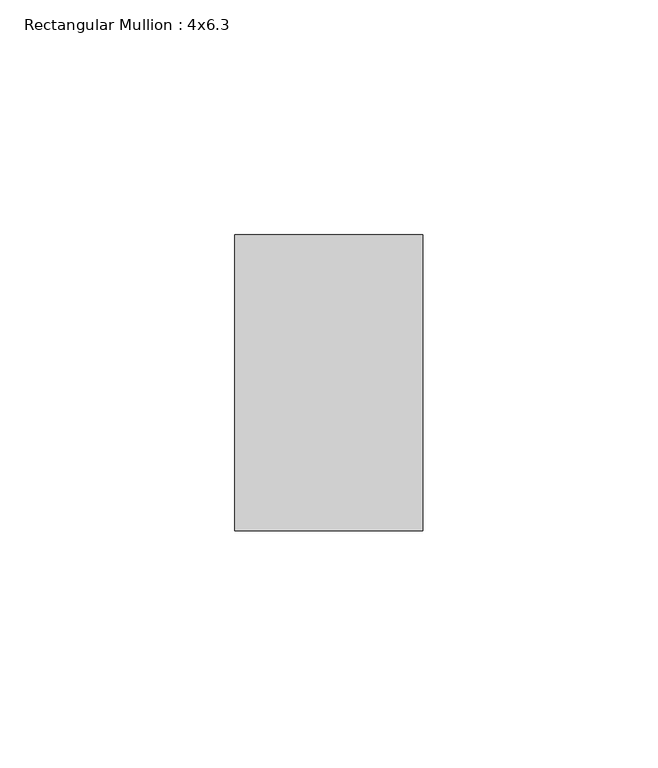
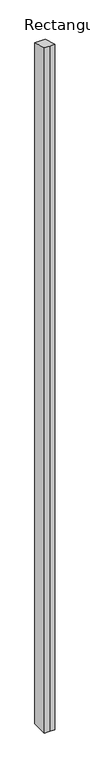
"""IFC4 building model written with IfcOpenShell, lengths in millimetres: member geometry, Rectangular Mullion : 4x6.3."""

import ifcopenshell
import ifcopenshell.guid

model = None  # the IFC model being written
_history = None  # IfcOwnerHistory: only IFC2X3 demands one
_inside = {}  # id of a spatial element -> (the spatial element, [elements in it])
_under = {}  # id of a project, library or spatial element -> (it, [spatial elements below it])
_declared = {}  # id of a project -> (the project, [libraries it declares])
_typed = {}  # id of a type object -> (the type object, [elements of that type])
_made_of = {}  # id of a material, layer set ... -> (it, [elements and type objects made of it])


def new_model(schema):
    """Start an empty IFC model of exactly this schema.

    Asked for "IFC4X3", IfcOpenShell would pick the latest addendum, in which some entities
    have other attributes; the version numbers below select the first issue.
    IFC2X3 requires an IfcOwnerHistory on every rooted entity: one is made here for all.
    """
    global model, _history
    if schema == "IFC4X3":
        model = ifcopenshell.file(schema_version=(4, 3, 0, 0))
    else:
        model = ifcopenshell.file(schema=schema)
    _inside.clear()
    _under.clear()
    _declared.clear()
    _typed.clear()
    _made_of.clear()
    _history = None
    if model.schema == "IFC2X3":
        org = make("IfcOrganization", Name="unknown")
        user = make(
            "IfcPersonAndOrganization",
            ThePerson=make("IfcPerson", FamilyName="unknown"),
            TheOrganization=org,
        )
        app = make(
            "IfcApplication",
            ApplicationDeveloper=org,
            Version="unknown",
            ApplicationFullName="unknown",
            ApplicationIdentifier="unknown",
        )
        _history = make(
            "IfcOwnerHistory",
            OwningUser=user,
            OwningApplication=app,
            ChangeAction="ADDED",
            CreationDate=0,
        )
    return model


def make(cls, **values):
    """One entity of the class cls with the attributes given. An attribute that is None is left unset."""
    return model.create_entity(
        cls, **{name: value for name, value in values.items() if value is not None}
    )


def rooted(cls, **values):
    """An entity with a GlobalId (a new one), such as an element, a storey or a relation."""
    return make(cls, GlobalId=ifcopenshell.guid.new(), OwnerHistory=_history, **values)


def si_unit(unit_type, name, prefix=None):
    """IfcSIUnit, for example si_unit("LENGTHUNIT", "METRE", prefix="MILLI")."""
    return make("IfcSIUnit", UnitType=unit_type, Prefix=prefix, Name=name)


def assignment(units):
    """IfcUnitAssignment: the units of a project."""
    return None if units is None else make("IfcUnitAssignment", Units=units)


def point(xyz):
    """IfcCartesianPoint."""
    return None if xyz is None else make("IfcCartesianPoint", Coordinates=xyz)


def direction(xyz):
    """IfcDirection."""
    return None if xyz is None else make("IfcDirection", DirectionRatios=xyz)


def frame(location, z_axis=None, x_axis=None):
    """IfcAxis2Placement3D, a coordinate frame: its origin and axes. An axis left out is left unset."""
    return make(
        "IfcAxis2Placement3D",
        Location=point(location),
        Axis=direction(z_axis),
        RefDirection=direction(x_axis),
    )


def origin():
    """The frame at (0, 0, 0) with its axes left unset."""
    return frame((0.0, 0.0, 0.0))


def place(relative_to, where):
    """IfcLocalPlacement: puts the frame where relative to a parent placement (None: the world)."""
    return make(
        "IfcLocalPlacement", PlacementRelTo=relative_to, RelativePlacement=where
    )


def context(
    kind, dimensions, precision=None, world=None, true_north=None, identifier=None
):
    """IfcGeometricRepresentationContext, for example the 3D "Model" context."""
    return make(
        "IfcGeometricRepresentationContext",
        ContextIdentifier=identifier,
        ContextType=kind,
        CoordinateSpaceDimension=dimensions,
        Precision=precision,
        WorldCoordinateSystem=world,
        TrueNorth=true_north,
    )


def project(units=None, contexts=None):
    """IfcProject with its units and contexts."""
    return rooted(
        "IfcProject",
        Name="project",
        RepresentationContexts=contexts,
        UnitsInContext=assignment(units),
    )


def spatial(cls, under=None, at=None, **own):
    """A site, building, storey or space (cls), placed at a placement, below another one or the project."""
    s = rooted(cls, ObjectPlacement=at, **own)
    if under is not None:
        _under.setdefault(under.id(), (under, []))[1].append(s)
    return s


def faces_of(points, faces, orient=None, outer=None):
    """IfcFace entities. A face is a list of loops; a loop is a list of indices into points, from 0.

    orient and outer hold one flag for each loop. By default every Orientation is true, the
    first loop of a face is its IfcFaceOuterBound and the others are IfcFaceBound.
    """
    made = []
    for i, loops in enumerate(faces):
        bounds = []
        for j, loop in enumerate(loops):
            is_outer = j == 0 if outer is None else outer[i][j]
            bounds.append(
                make(
                    "IfcFaceOuterBound" if is_outer else "IfcFaceBound",
                    Bound=make("IfcPolyLoop", Polygon=[points[k] for k in loop]),
                    Orientation=True if orient is None else orient[i][j],
                )
            )
        made.append(make("IfcFace", Bounds=bounds))
    return made


def faceted_brep(points, faces, orient=None, outer=None, voids=None):
    """IfcFacetedBrep: a solid bounded by flat faces; with voids (closed shells), ...WithVoids."""
    shared = [point(p) for p in points]
    hull = make("IfcClosedShell", CfsFaces=faces_of(shared, faces, orient, outer))
    if voids is None:
        return make("IfcFacetedBrep", Outer=hull)
    return make(
        "IfcFacetedBrepWithVoids",
        Outer=hull,
        Voids=[
            make(cls, CfsFaces=faces_of(shared, fs, o, b)) for cls, fs, o, b in voids
        ],
    )


def shape(context_of_items, identifier, shape_type, items):
    """IfcShapeRepresentation: the items that make up one representation, for example the "Body"."""
    return make(
        "IfcShapeRepresentation",
        ContextOfItems=context_of_items,
        RepresentationIdentifier=identifier,
        RepresentationType=shape_type,
        Items=items,
    )


def source(mapping_origin, context_of_items, identifier, shape_type, items):
    """IfcRepresentationMap: a shape defined once, which mapped items show again and again."""
    return make(
        "IfcRepresentationMap",
        MappingOrigin=mapping_origin,
        MappedRepresentation=shape(context_of_items, identifier, shape_type, items),
    )


def transform(
    local_origin,
    x_axis=None,
    y_axis=None,
    z_axis=None,
    scale=None,
    scale2=None,
    scale3=None,
    uniform=True,
):
    """IfcCartesianTransformationOperator3D, or its non-uniform kind. x_axis, y_axis, z_axis: its Axis1, 2, 3."""
    if uniform:
        return make(
            "IfcCartesianTransformationOperator3D",
            Axis1=direction(x_axis),
            Axis2=direction(y_axis),
            LocalOrigin=point(local_origin),
            Scale=scale,
            Axis3=direction(z_axis),
        )
    return make(
        "IfcCartesianTransformationOperator3DnonUniform",
        Axis1=direction(x_axis),
        Axis2=direction(y_axis),
        LocalOrigin=point(local_origin),
        Scale=scale,
        Axis3=direction(z_axis),
        Scale2=scale2,
        Scale3=scale3,
    )


def mapped(mapping_source, mapping_target):
    """IfcMappedItem: shows the shape of a source again, moved by a transform."""
    return make(
        "IfcMappedItem", MappingSource=mapping_source, MappingTarget=mapping_target
    )


def made_of(thing, what):
    """Note that an element or type object is made of a material, layer set ...; save() writes the relation."""
    if what is not None:
        _made_of.setdefault(what.id(), (what, []))[1].append(thing)
    return thing


def element(
    cls,
    number,
    at=None,
    inside=None,
    cuts=None,
    type_object=None,
    material=None,
    context=None,
    identifier="Body",
    shape_type=None,
    held_by="IfcProductDefinitionShape",
    body=None,
    shapes=None,
    **own,
):
    """One element of the class cls, such as IfcWall. Its Tag is "e" and its number.

    at: its placement. inside: the storey or other place that contains it. cuts: it is an
    opening in that element (IfcRelVoidsElement). A single representation is given by context,
    identifier, shape_type and body (its items); several are given by shapes. held_by: the class
    of the entity that holds the representations. save() writes the other relations.
    """
    e = rooted(cls, Tag="e%d" % number, ObjectPlacement=at, **own)
    if body is not None:
        shapes = [shape(context, identifier, shape_type, body)]
    if shapes is not None:
        e.Representation = make(held_by, Representations=shapes)
    if inside is not None:
        _inside.setdefault(inside.id(), (inside, []))[1].append(e)
    if cuts is not None:
        rooted(
            "IfcRelVoidsElement", RelatingBuildingElement=cuts, RelatedOpeningElement=e
        )
    if type_object is not None:
        _typed.setdefault(type_object.id(), (type_object, []))[1].append(e)
    return made_of(e, material)


def aggregate(whole, parts):
    """IfcRelAggregates: a whole, such as a stair, and the parts it consists of."""
    return rooted("IfcRelAggregates", RelatingObject=whole, RelatedObjects=parts)


def save(model, path):
    """Write the relations noted so far, then the file.

    IfcRelAggregates (storeys below a building ...), IfcRelContainedInSpatialStructure (elements
    in a storey), IfcRelDefinesByType, IfcRelAssociatesMaterial and IfcRelDeclares: one each for
    every whole, place, type object, material and project.
    """
    for whole, parts in _under.values():
        aggregate(whole, parts)
    for where, things in _inside.values():
        rooted(
            "IfcRelContainedInSpatialStructure",
            RelatedElements=things,
            RelatingStructure=where,
        )
    for kind, things in _typed.values():
        rooted("IfcRelDefinesByType", RelatedObjects=things, RelatingType=kind)
    for what, things in _made_of.values():
        rooted("IfcRelAssociatesMaterial", RelatedObjects=things, RelatingMaterial=what)
    for by, libraries in _declared.values():
        rooted("IfcRelDeclares", RelatingContext=by, RelatedDefinitions=libraries)
    model.write(path)


def rectangular_mullion_4x6_3_4b727375(model_context):
    return source(origin(), model_context, "Body", "Brep", [
        faceted_brep([(-20.0, 20.0, -2771.3942457), (-20.0, 83.0, -2771.3942457), (20.0, 83.0, -2771.3942457), (20.0, 20.0, -2771.3942457), (0.0, 20.0, -2771.3942457), (0.0, 20.0, -5.4283368), (-20.0, 20.0, -5.4283368), (20.0, 20.0, -5.4283368), (20.0, 83.0, -22.5275978), (-20.0, 83.0, -22.5275978)], [[[0, 1, 2, 3, 4]], [[5, 6, 0, 4]], [[7, 5, 4, 3]], [[8, 7, 3, 2]], [[9, 8, 2, 1]], [[6, 9, 1, 0]], [[6, 5, 7, 8, 9]]]),
    ])


if __name__ == "__main__":
    model = new_model("IFC4")
    model_context = context("Model", 3, world=origin())
    ifc_project = project(units=[si_unit("LENGTHUNIT", "METRE", prefix="MILLI")], contexts=[model_context])
    site = spatial("IfcSite", under=ifc_project)
    building = spatial("IfcBuilding", under=site)
    placement = place(None, origin())
    rectangular_mullion_4x6_3_shape = rectangular_mullion_4x6_3_4b727375(model_context)
    element("IfcMember", 1, ObjectType="Rectangular Mullion : 4x6.3", at=placement, inside=building, context=model_context, shape_type="MappedRepresentation", body=[
        mapped(rectangular_mullion_4x6_3_shape, transform((0.0, 0.0, 0.0), x_axis=(1.0, 0.0, 0.0), y_axis=(0.0, 1.0, 0.0), z_axis=(0.0, 0.0, 1.0))),
    ])
    save(model, "model.ifc")
